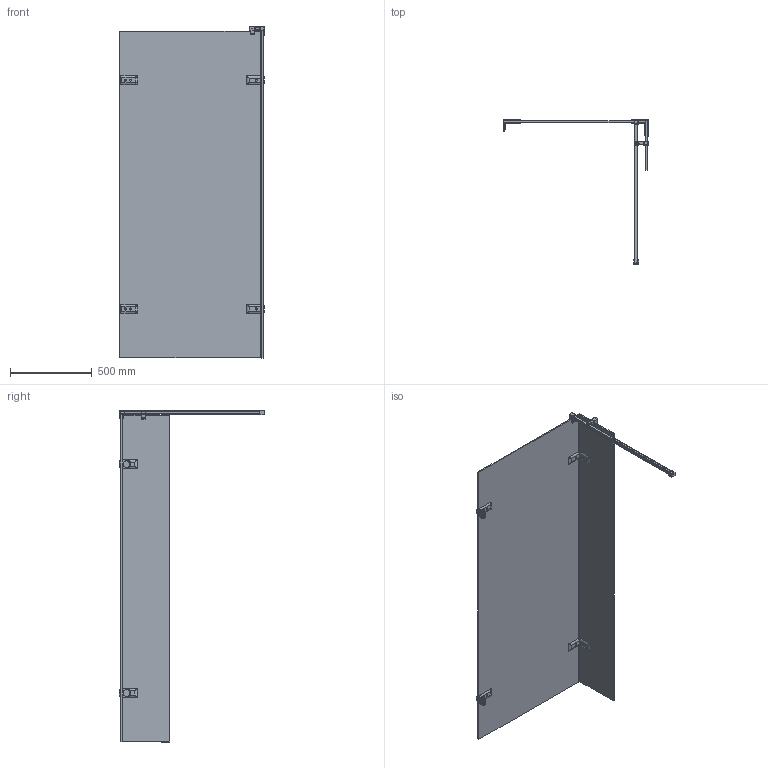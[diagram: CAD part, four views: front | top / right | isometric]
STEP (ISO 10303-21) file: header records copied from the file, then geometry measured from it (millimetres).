
FILE_DESCRIPTION(/* description */ (''),/* implementation_level */ '2;1');
FILE_NAME(/* name */ 'D:\2\GLASS LINE GK-882B\GLASS LINE GK-882B правая модель\GLASS LINE GK-882B ПРАВАЯ-3D.stp',/* time_stamp */ '2020-05-01T12:06:05+03:00',/* author */ ('User'),/* organization */ (''),/* preprocessor_version */ 'ST-DEVELOPER v15.2',/* originating_system */ 'Autodesk Inventor 2014',/* authorisation */ '');
FILE_SCHEMA (('AUTOMOTIVE_DESIGN { 1 0 10303 214 3 1 1 }'));
Length unit declared in the file: millimetre
Products named in the file (1): GLASS LINE GK-882B ПРАВАЯ-3D
Bounding box: 888.5 x 888 x 2031 mm (x, y, z)
Volume: 19230615.1 mm3; surface area: 4977093.2 mm2
Topology: 3 solids, 17 shells, 387 faces, 964 edges, 605 vertices
Faces by surface type: plane 186, cylinder 128, bspline 36, torus 22, sphere 8, cone 7
Full cylindrical faces by diameter (mm): 4.2 x11, 4.917 x4, 5.2 x1, 13 x8, 16 x8, 28 x2, 28.5 x2, 40 x2
Entity records: 13616 total; most frequent: CARTESIAN_POINT 4258, DIRECTION 1808, ORIENTED_EDGE 1754, EDGE_CURVE 877, AXIS2_PLACEMENT_3D 643, VERTEX_POINT 597, LINE 522, VECTOR 522
